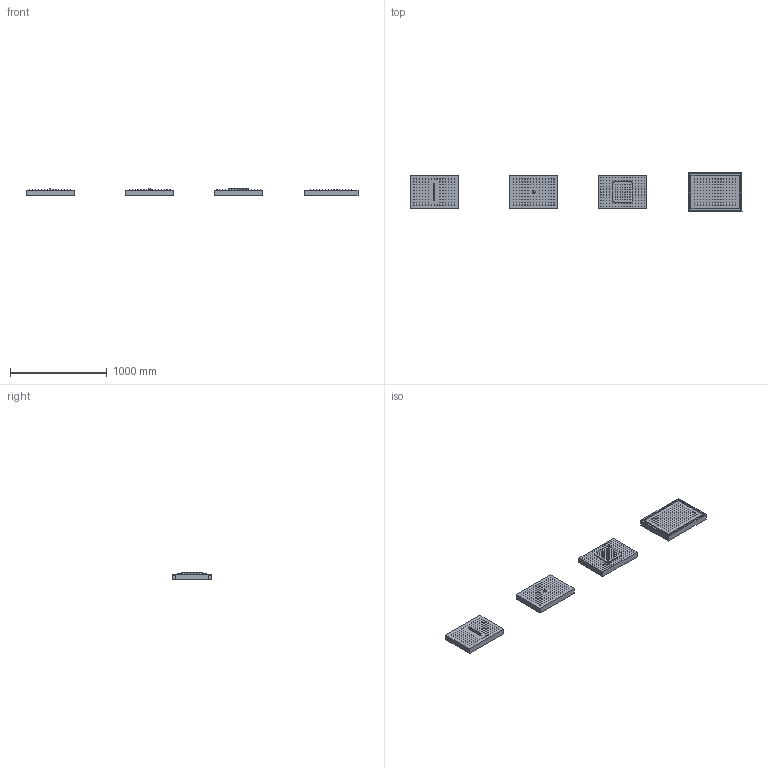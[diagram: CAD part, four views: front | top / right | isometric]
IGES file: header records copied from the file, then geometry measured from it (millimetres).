
Global section: file name: D:\Desktop\GIOVANNI\SCHEDE PRODOTTO\SOFFIONI\SQUARE SOWER\3D\SQUARE SHOWER+LED+WATER ATOMIZER UNIT+WATERFALL UNIT.igs; native system: Rhinoceros ( Jan 17 2018 ); preprocessor: Trout Lake IGES 012 Jan 17 2018; date: 230523.150617; units: millimetre
Bounding box: 3435.43 x 406 x 80 mm (x, y, z)
Surface area: 2139363.7 mm2 (no closed solid volume)
Topology: 0 solids, 0 shells, 4188 faces, 25630 edges, 23864 vertices
Faces by surface type: bspline 4188
